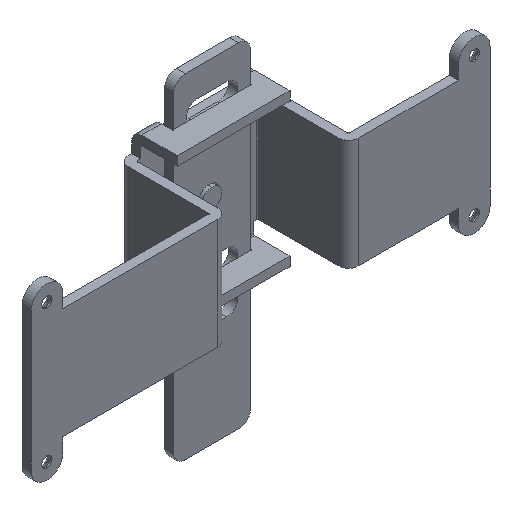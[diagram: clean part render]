
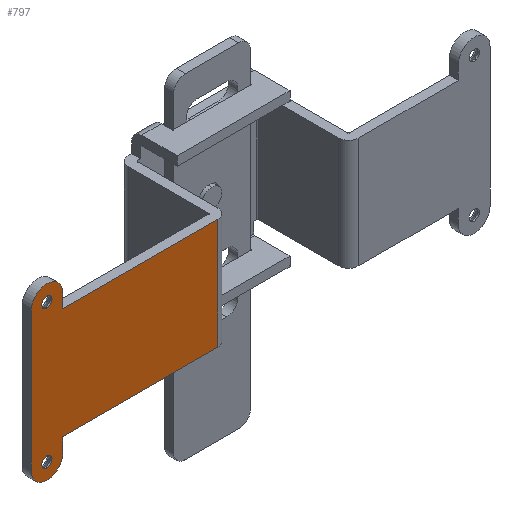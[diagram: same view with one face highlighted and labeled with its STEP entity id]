
A CAD part, isometric view. The second image highlights one B-rep face of the part: STEP entity #797.
In plain terms, the highlighted planar face has unit normal (0, -1, 0).
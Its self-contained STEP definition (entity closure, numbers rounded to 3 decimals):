
#678=FACE_BOUND('',#1103,.T.);
#679=FACE_BOUND('',#1104,.T.);
#680=FACE_BOUND('',#1105,.T.);
#722=PLANE('',#4294);
#797=ADVANCED_FACE('',(#678,#679,#680),#722,.T.);
#1103=EDGE_LOOP('',(#1451,#1452,#1453,#1454,#1455,#1456,#1457,#1458));
#1104=EDGE_LOOP('',(#1459,#1460));
#1105=EDGE_LOOP('',(#1461,#1462));
#1451=ORIENTED_EDGE('',*,*,#2317,.F.);
#1452=ORIENTED_EDGE('',*,*,#2318,.T.);
#1453=ORIENTED_EDGE('',*,*,#2319,.F.);
#1454=ORIENTED_EDGE('',*,*,#2320,.T.);
#1455=ORIENTED_EDGE('',*,*,#2321,.T.);
#1456=ORIENTED_EDGE('',*,*,#2223,.T.);
#1457=ORIENTED_EDGE('',*,*,#2322,.F.);
#1458=ORIENTED_EDGE('',*,*,#2323,.T.);
#1459=ORIENTED_EDGE('',*,*,#2152,.F.);
#1460=ORIENTED_EDGE('',*,*,#2150,.F.);
#1461=ORIENTED_EDGE('',*,*,#2146,.F.);
#1462=ORIENTED_EDGE('',*,*,#2144,.F.);
#1912=VERTEX_POINT('',#8131);
#1914=VERTEX_POINT('',#8135);
#1916=VERTEX_POINT('',#8143);
#1918=VERTEX_POINT('',#8147);
#1977=VERTEX_POINT('',#8293);
#1978=VERTEX_POINT('',#8295);
#2049=VERTEX_POINT('',#8476);
#2050=VERTEX_POINT('',#8477);
#2051=VERTEX_POINT('',#8479);
#2052=VERTEX_POINT('',#8481);
#2053=VERTEX_POINT('',#8483);
#2054=VERTEX_POINT('',#8486);
#2144=EDGE_CURVE('',#1914,#1912,#2676,.T.);
#2146=EDGE_CURVE('',#1912,#1914,#2678,.T.);
#2150=EDGE_CURVE('',#1918,#1916,#2680,.T.);
#2152=EDGE_CURVE('',#1916,#1918,#2682,.T.);
#2223=EDGE_CURVE('',#1978,#1977,#3482,.T.);
#2317=EDGE_CURVE('',#2049,#2050,#3552,.T.);
#2318=EDGE_CURVE('',#2049,#2051,#2724,.T.);
#2319=EDGE_CURVE('',#2052,#2051,#3553,.T.);
#2320=EDGE_CURVE('',#2052,#2053,#2725,.T.);
#2321=EDGE_CURVE('',#2053,#1978,#3554,.T.);
#2322=EDGE_CURVE('',#2054,#1977,#3555,.T.);
#2323=EDGE_CURVE('',#2054,#2050,#3556,.T.);
#2676=CIRCLE('',#4212,1.3);
#2678=CIRCLE('',#4215,1.3);
#2680=CIRCLE('',#4218,1.3);
#2682=CIRCLE('',#4221,1.3);
#2724=CIRCLE('',#4292,4.);
#2725=CIRCLE('',#4293,4.);
#3482=LINE('',#8294,#4020);
#3552=LINE('',#8475,#4090);
#3553=LINE('',#8480,#4091);
#3554=LINE('',#8484,#4092);
#3555=LINE('',#8485,#4093);
#3556=LINE('',#8487,#4094);
#4020=VECTOR('',#4945,1.);
#4090=VECTOR('',#5095,1.);
#4091=VECTOR('',#5098,1.);
#4092=VECTOR('',#5101,1.);
#4093=VECTOR('',#5102,1.);
#4094=VECTOR('',#5103,1.);
#4212=AXIS2_PLACEMENT_3D('',#8136,#4810,#4811);
#4215=AXIS2_PLACEMENT_3D('',#8139,#4816,#4817);
#4218=AXIS2_PLACEMENT_3D('',#8148,#4824,#4825);
#4221=AXIS2_PLACEMENT_3D('',#8151,#4830,#4831);
#4292=AXIS2_PLACEMENT_3D('',#8478,#5096,#5097);
#4293=AXIS2_PLACEMENT_3D('',#8482,#5099,#5100);
#4294=AXIS2_PLACEMENT_3D('',#8488,#5104,#5105);
#4810=DIRECTION('',(0.,-1.,0.));
#4811=DIRECTION('',(0.,0.,-1.));
#4816=DIRECTION('',(0.,-1.,0.));
#4817=DIRECTION('',(0.,0.,-1.));
#4824=DIRECTION('',(0.,-1.,0.));
#4825=DIRECTION('',(0.,0.,-1.));
#4830=DIRECTION('',(0.,-1.,0.));
#4831=DIRECTION('',(0.,0.,-1.));
#4945=DIRECTION('',(1.,0.,0.));
#5095=DIRECTION('',(0.,0.,-1.));
#5096=DIRECTION('',(0.,-1.,0.));
#5097=DIRECTION('',(0.,0.,-1.));
#5098=DIRECTION('',(0.,0.,1.));
#5099=DIRECTION('',(0.,-1.,0.));
#5100=DIRECTION('',(0.,0.,-1.));
#5101=DIRECTION('',(0.,0.,1.));
#5102=DIRECTION('',(0.,0.,-1.));
#5103=DIRECTION('',(-1.,0.,0.));
#5104=DIRECTION('',(0.,-1.,0.));
#5105=DIRECTION('',(-1.,0.,0.));
#8131=CARTESIAN_POINT('',(2.95,-2.3,-18.8));
#8135=CARTESIAN_POINT('',(2.95,-2.3,-16.2));
#8136=CARTESIAN_POINT('',(2.95,-2.3,-17.5));
#8139=CARTESIAN_POINT('',(2.95,-2.3,-17.5));
#8143=CARTESIAN_POINT('',(2.95,-2.3,16.2));
#8147=CARTESIAN_POINT('',(2.95,-2.3,18.8));
#8148=CARTESIAN_POINT('',(2.95,-2.3,17.5));
#8151=CARTESIAN_POINT('',(2.95,-2.3,17.5));
#8293=CARTESIAN_POINT('',(46.15,-2.3,-14.));
#8294=CARTESIAN_POINT('',(6.95,-2.3,-14.));
#8295=CARTESIAN_POINT('',(6.95,-2.3,-14.));
#8475=CARTESIAN_POINT('',(6.95,-2.3,20.));
#8476=CARTESIAN_POINT('',(6.95,-2.3,17.5));
#8477=CARTESIAN_POINT('',(6.95,-2.3,14.));
#8478=CARTESIAN_POINT('',(2.95,-2.3,17.5));
#8479=CARTESIAN_POINT('',(-1.05,-2.3,17.5));
#8480=CARTESIAN_POINT('',(-1.05,-2.3,-20.));
#8481=CARTESIAN_POINT('',(-1.05,-2.3,-17.5));
#8482=CARTESIAN_POINT('',(2.95,-2.3,-17.5));
#8483=CARTESIAN_POINT('',(6.95,-2.3,-17.5));
#8484=CARTESIAN_POINT('',(6.95,-2.3,-20.));
#8485=CARTESIAN_POINT('',(46.15,-2.3,15.));
#8486=CARTESIAN_POINT('',(46.15,-2.3,14.));
#8487=CARTESIAN_POINT('',(46.2,-2.3,14.));
#8488=CARTESIAN_POINT('',(0.,-2.3,-22.5));
